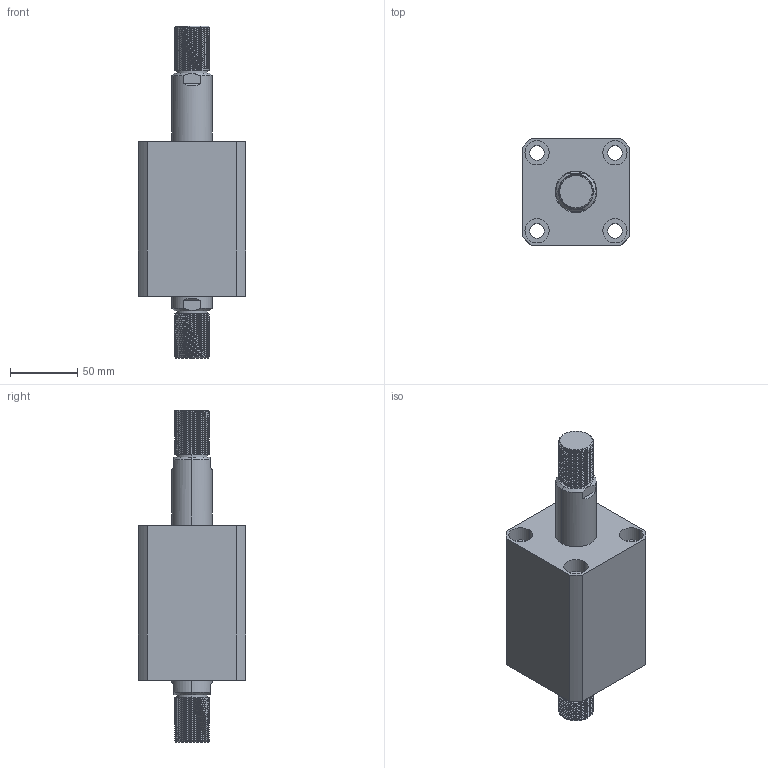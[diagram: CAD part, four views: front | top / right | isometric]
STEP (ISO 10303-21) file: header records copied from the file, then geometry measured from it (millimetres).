
FILE_DESCRIPTION (( 'STEP AP203' ), '1' );
FILE_NAME ('CHTB-SW50-40W.STEP', '2018-05-21T06:08:41', ( '' ), ( '' ), 'SwSTEP 2.0', 'SolidWorks 2015', '' );
FILE_SCHEMA (( 'CONFIG_CONTROL_DESIGN' ));
Length unit declared in the file: millimetre
Products named in the file (4): 掛极SW50-40W; CHTB-SW50-40W; 活塞杆SW50-40W; ヶ裔
Assembly tree (3 placements, depth 2):
  CHTB-SW50-40W
    掛极SW50-40W
    活塞杆SW50-40W
    ヶ裔
Bounding box: 80 x 80 x 247 mm (x, y, z)
Volume: 687529.3 mm3; surface area: 129645.1 mm2
Topology: 3 solids, 3 shells, 314 faces, 794 edges, 514 vertices
Faces by surface type: cylinder 202, plane 51, cone 29, torus 24, bspline 8
Entity records: 17377 total; most frequent: CARTESIAN_POINT 10049, ORIENTED_EDGE 1580, DIRECTION 1358, EDGE_CURVE 790, AXIS2_PLACEMENT_3D 549, VERTEX_POINT 514, EDGE_LOOP 362, FACE_OUTER_BOUND 314
